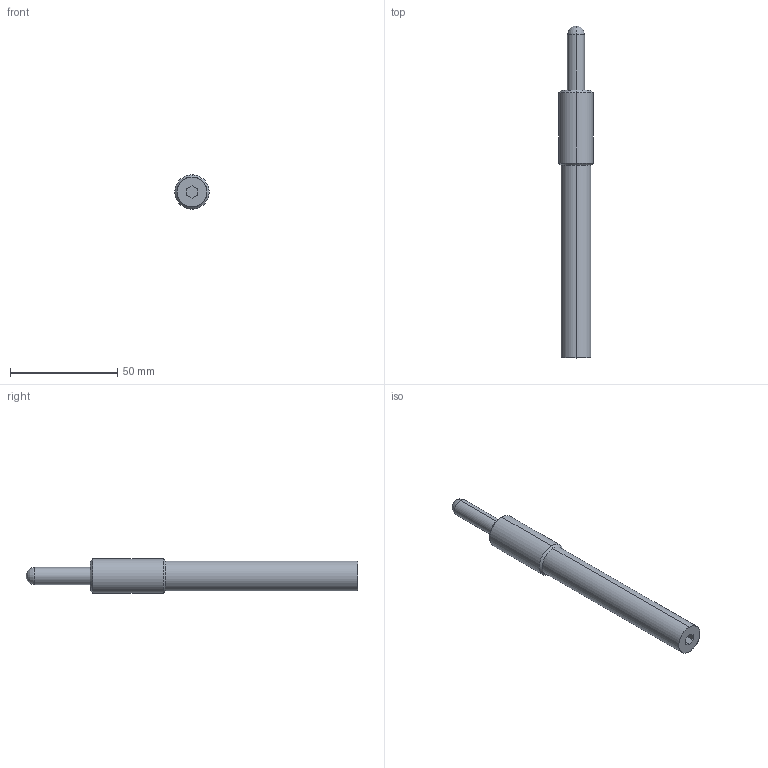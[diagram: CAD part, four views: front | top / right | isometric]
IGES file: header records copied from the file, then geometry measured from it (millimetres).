
Start section: START RECORD GO HERE.
Global section: file name: M314-04-012.igs; native system: DASSAULT SYSTEMES CATIA V5 R20 - www.3ds.com; preprocessor: CATIA Version 5 Release 20 ; author: Utente; organization: NB04-ASUS; date: 20200418.091147; units: millimetre
Bounding box: 16 x 155 x 16 mm (x, y, z)
Surface area: 6841.3 mm2 (no closed solid volume)
Topology: 0 solids, 0 shells, 21 faces, 90 edges, 88 vertices
Faces by surface type: revolution 12, extrusion 9
